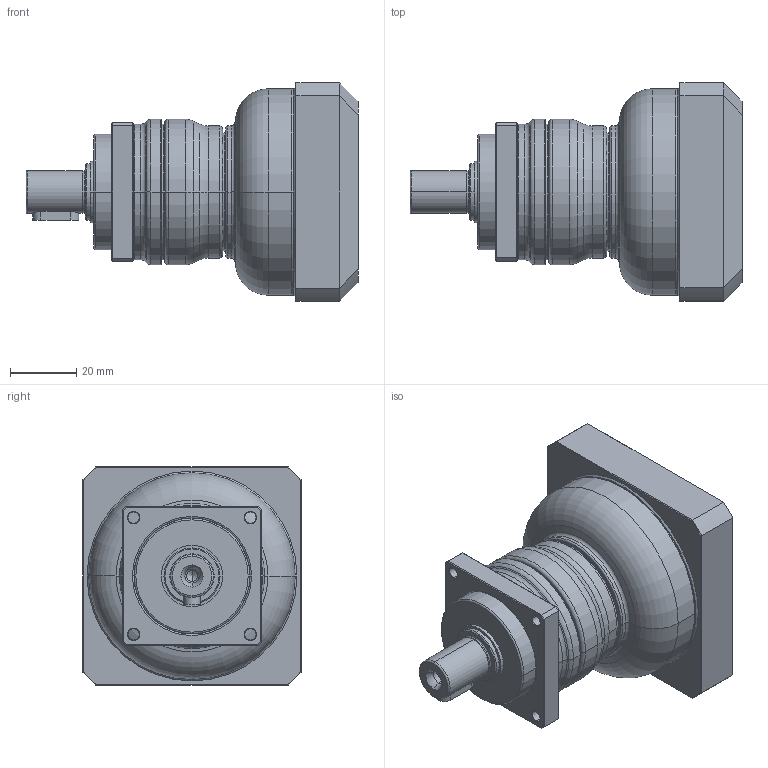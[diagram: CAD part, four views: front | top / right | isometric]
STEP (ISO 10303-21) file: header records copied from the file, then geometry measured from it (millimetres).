
FILE_DESCRIPTION((''),'2;1');
FILE_NAME('PA2-042_1ST_14-P0411300101_ASM','2016-05-04T',('d01943'),(''),'PRO/ENGINEER BY PARAMETRIC TECHNOLOGY CORPORATION, 2008410','PRO/ENGINEER BY PARAMETRIC TECHNOLOGY CORPORATION, 2008410','');
FILE_SCHEMA(('CONFIG_CONTROL_DESIGN'));
Length unit declared in the file: millimetre
Products named in the file (9): P1327100001; P0250100001; P1324100201; P0350100601; P0941102001; P0503300005; P0411300101; P1702300001; PA2-042_1ST_14-P0411300101_ASM
Assembly tree (8 placements, depth 2):
  PA2-042_1ST_14-P0411300101_ASM
    P1327100001
    P0250100001
    P1324100201
    P0350100601
    P0941102001
    P0503300005
    P0411300101
    P1702300001
Bounding box: 100.5 x 66 x 66 mm (x, y, z)
Volume: 140612.1 mm3; surface area: 53118.3 mm2
Topology: 8 solids, 8 shells, 469 faces, 1027 edges, 592 vertices
Faces by surface type: cone 148, cylinder 131, torus 88, plane 86, bspline 16
Entity records: 17469 total; most frequent: CARTESIAN_POINT 6912, DIRECTION 2388, ORIENTED_EDGE 2014, AXIS2_PLACEMENT_3D 1018, EDGE_CURVE 1007, VERTEX_POINT 592, CIRCLE 548, EDGE_LOOP 531
